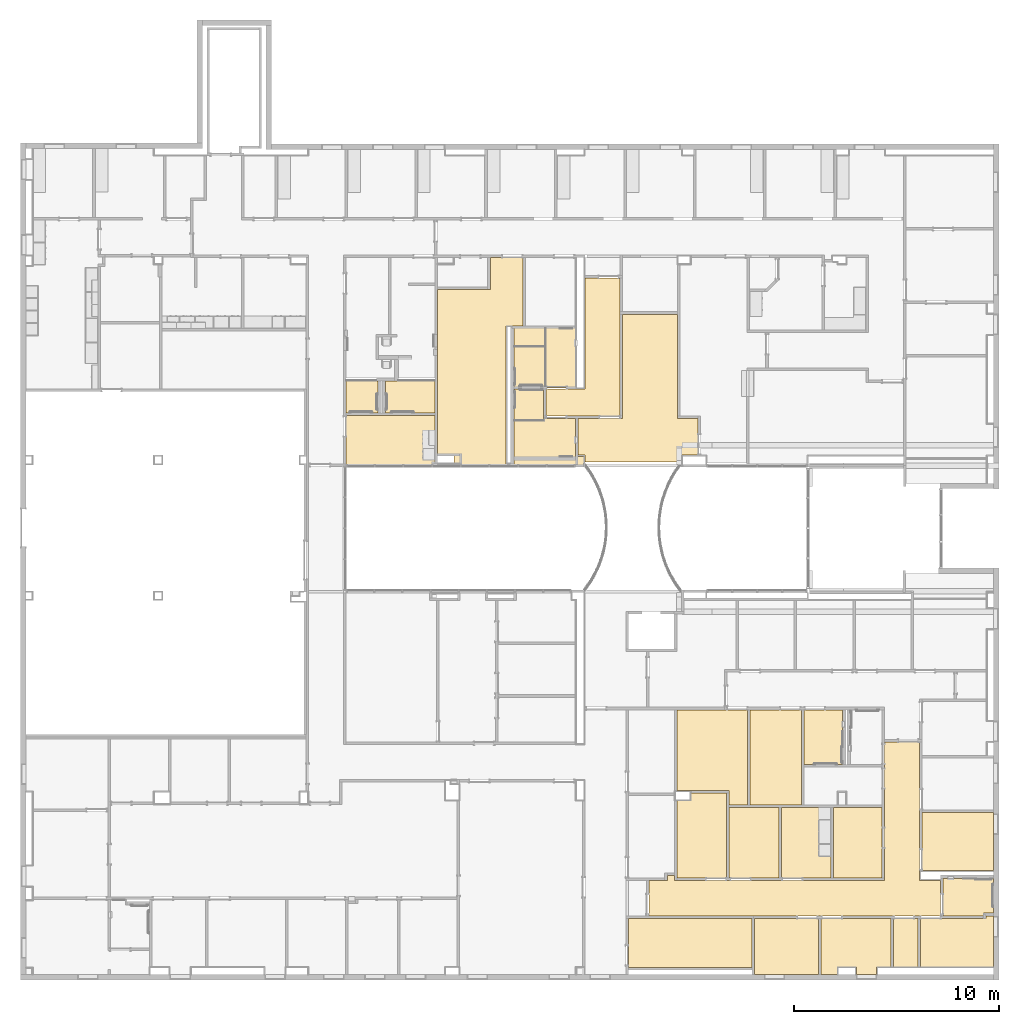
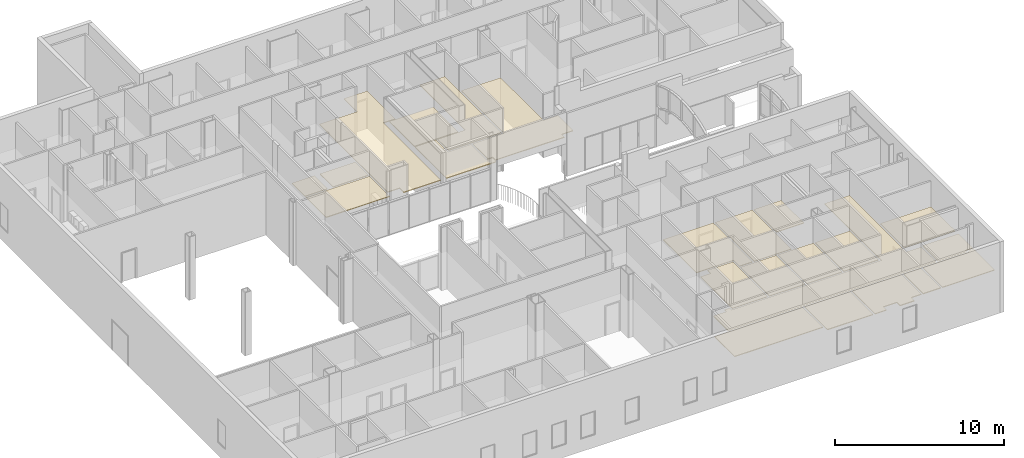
# One storey, part 28 of 47: 23 coverings.
"""IFC2X3 building model written with IfcOpenShell, lengths in metres."""

from ifc_helpers import new_model, entity, si_unit, converted_unit, frame, origin, place, context, project, spatial, face_set, surface_model, material, layer, layer_set, layer_usage, element, save


model = new_model("IFC2X3")

# Units and contexts
model_context = context("Model", 3, precision=1e-09, world=origin())
plan_context = context("Plan", 3, precision=1e-09, world=origin())
ifc_project = project(units=[si_unit("LENGTHUNIT", "METRE"), si_unit("AREAUNIT", "SQUARE_METRE"), si_unit("VOLUMEUNIT", "CUBIC_METRE"), converted_unit("PLANEANGLEUNIT", "DEGREE", entity("IfcRatioMeasure", 0.01745329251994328), si_unit("PLANEANGLEUNIT", "RADIAN"), dimensions=[0, 0, 0, 0, 0, 0, 0]), si_unit("TIMEUNIT", "SECOND")], contexts=[model_context, plan_context])

# Site, building, storey
site_placement = place(None, origin())
site = spatial("IfcSite", under=ifc_project, at=site_placement, Name="Default", CompositionType="ELEMENT")
building_placement = place(site_placement, origin())
building = spatial("IfcBuilding", under=site, at=building_placement, CompositionType="ELEMENT")
storey_placement = place(building_placement, frame((0.0, 0.0, 4.570000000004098)))
storey = spatial("IfcBuildingStorey", under=building, at=storey_placement, Name="Second Floor", CompositionType="ELEMENT", Elevation=4.570000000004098)

# Coverings
ifc_material_1 = material(Name="Default")
ifc_layer_1 = layer(ifc_material_1, 0.03599999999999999)
ifc_material_2 = material(Name="Ceiling Tile 600 x 600")
ifc_layer_2 = layer(ifc_material_2, 0.016)
ifc_layer_set = layer_set([ifc_layer_1, ifc_layer_2], Name="Compound Ceiling:ACT 600 x 600mm Grid")
ifc_layer_usage_1 = layer_usage(ifc_layer_set, "AXIS3", "NEGATIVE", 0.0)
covering_1_placement = place(storey_placement, origin())
element("IfcCovering", 1, at=covering_1_placement, inside=storey, material=ifc_layer_usage_1, Name="Compound Ceiling:ACT 600 x 600mm Grid", ObjectType="Compound Ceiling:ACT 600 x 600mm Grid", PredefinedType="CEILING", context=model_context, shape_type="SurfaceModel", body=[
    surface_model("IfcFaceBasedSurfaceModel", [(-21.73000000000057, 38.51435336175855, 2.732000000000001), (-19.83000000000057, 38.51435336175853, 2.732000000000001), (-19.83000000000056, 43.91543871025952, 2.732000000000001), (-18.12900000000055, 43.9154387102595, 2.732000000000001), (-18.12900000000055, 42.28643871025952, 2.732000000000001), (-18.12900000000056, 37.19843871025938, 2.732000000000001), (-21.73000000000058, 37.1984387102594, 2.732000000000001), (-21.73000000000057, 38.51435336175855, 2.680000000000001), (-21.73000000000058, 37.1984387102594, 2.680000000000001), (-18.12900000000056, 37.19843871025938, 2.680000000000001), (-18.12900000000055, 42.28643871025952, 2.680000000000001), (-18.12900000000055, 43.9154387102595, 2.680000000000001), (-19.83000000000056, 43.91543871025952, 2.680000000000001), (-19.83000000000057, 38.51435336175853, 2.680000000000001)], [face_set([[[0, 1, 2, 3, 4, 5, 6]], [[7, 8, 9, 10, 11, 12, 13]], [[6, 8, 7, 0]], [[5, 6, 8, 9]], [[4, 5, 9, 10]], [[3, 4, 10, 11]], [[2, 12, 11, 3]], [[1, 13, 12, 2]], [[0, 7, 13, 1]]])]),
])
ifc_layer_usage_2 = layer_usage(ifc_layer_set, "AXIS3", "NEGATIVE", 0.0)
covering_2_placement = place(storey_placement, origin())
element("IfcCovering", 2, at=covering_2_placement, inside=storey, material=ifc_layer_usage_2, Name="Compound Ceiling:ACT 600 x 600mm Grid", ObjectType="Compound Ceiling:ACT 600 x 600mm Grid", PredefinedType="CEILING", context=model_context, shape_type="SurfaceModel", body=[
    surface_model("IfcFaceBasedSurfaceModel", [(-14.32000000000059, 35.27443871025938, 2.732000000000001), (-15.10997500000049, 35.27443871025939, 2.732000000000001), (-15.10997500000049, 34.94688750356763, 2.732000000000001), (-19.83000000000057, 34.94688750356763, 2.732000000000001), (-19.83000000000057, 35.2744387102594, 2.732000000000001), (-20.16600000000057, 35.2744387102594, 2.732000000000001), (-20.16600000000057, 37.07443871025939, 2.732000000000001), (-18.00500000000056, 37.07443871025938, 2.732000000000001), (-18.00500000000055, 42.15600069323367, 2.732000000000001), (-15.32000000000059, 42.15600069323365, 2.732000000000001), (-15.3200000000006, 37.07443871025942, 2.732000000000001), (-14.32000000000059, 37.07443871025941, 2.732000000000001), (-14.32000000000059, 35.27443871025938, 2.680000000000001), (-14.32000000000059, 37.07443871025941, 2.680000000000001), (-15.3200000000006, 37.07443871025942, 2.680000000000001), (-15.32000000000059, 42.15600069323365, 2.680000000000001), (-18.00500000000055, 42.15600069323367, 2.680000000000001), (-18.00500000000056, 37.07443871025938, 2.680000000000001), (-20.16600000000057, 37.07443871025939, 2.680000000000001), (-20.16600000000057, 35.2744387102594, 2.680000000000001), (-19.83000000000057, 35.2744387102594, 2.680000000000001), (-19.83000000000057, 34.94688750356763, 2.680000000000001), (-15.10997500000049, 34.94688750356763, 2.680000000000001), (-15.10997500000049, 35.27443871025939, 2.680000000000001)], [face_set([[[0, 1, 2, 3, 4, 5, 6, 7, 8, 9, 10, 11]], [[12, 13, 14, 15, 16, 17, 18, 19, 20, 21, 22, 23]], [[11, 0, 12, 13]], [[10, 14, 13, 11]], [[9, 10, 14, 15]], [[8, 16, 15, 9]], [[7, 17, 16, 8]], [[6, 18, 17, 7]], [[5, 19, 18, 6]], [[4, 5, 19, 20]], [[3, 21, 20, 4]], [[2, 3, 21, 22]], [[1, 2, 22, 23]], [[0, 1, 23, 12]]])]),
])
ifc_layer_usage_3 = layer_usage(ifc_layer_set, "AXIS3", "NEGATIVE", 0.0)
covering_3_placement = place(storey_placement, origin())
element("IfcCovering", 3, at=covering_3_placement, inside=storey, material=ifc_layer_usage_3, Name="Compound Ceiling:ACT 600 x 600mm Grid", ObjectType="Compound Ceiling:ACT 600 x 600mm Grid", PredefinedType="CEILING", context=model_context, shape_type="SurfaceModel", body=[
    surface_model("IfcFaceBasedSurfaceModel", [(-21.85400000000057, 37.07443871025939, 2.732000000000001), (-20.29000000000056, 37.07443871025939, 2.732000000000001), (-20.29000000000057, 35.22043871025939, 2.732000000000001), (-19.88400000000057, 35.22043871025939, 2.732000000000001), (-19.88400000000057, 34.77180159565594, 2.732000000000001), (-23.29000000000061, 34.77180159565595, 2.732000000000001), (-23.2900000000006, 38.51435336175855, 2.732000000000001), (-21.85400000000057, 38.51435336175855, 2.732000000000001), (-21.85400000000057, 37.07443871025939, 2.680000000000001), (-20.29000000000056, 37.07443871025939, 2.680000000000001), (-20.29000000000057, 35.22043871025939, 2.680000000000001), (-19.88400000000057, 35.22043871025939, 2.680000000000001), (-19.88400000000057, 34.77180159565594, 2.680000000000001), (-23.29000000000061, 34.77180159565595, 2.680000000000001), (-23.2900000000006, 38.51435336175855, 2.680000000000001), (-21.85400000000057, 38.51435336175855, 2.680000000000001)], [face_set([[[0, 1, 2, 3, 4, 5, 6, 7]], [[8, 9, 10, 11, 12, 13, 14, 15]], [[7, 0, 8, 15]], [[6, 14, 15, 7]], [[5, 13, 14, 6]], [[4, 5, 13, 12]], [[3, 4, 12, 11]], [[2, 10, 11, 3]], [[1, 2, 10, 9]], [[0, 8, 9, 1]]])]),
])
ifc_layer_usage_4 = layer_usage(ifc_layer_set, "AXIS3", "NEGATIVE", 0.0)
covering_4_placement = place(storey_placement, origin())
element("IfcCovering", 4, at=covering_4_placement, inside=storey, material=ifc_layer_usage_4, Name="Compound Ceiling:ACT 600 x 600mm Grid", ObjectType="Compound Ceiling:ACT 600 x 600mm Grid", PredefinedType="CEILING", context=model_context, shape_type="SurfaceModel", body=[
    surface_model("IfcFaceBasedSurfaceModel", [(-20.29000000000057, 41.54043871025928, 2.732000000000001), (-20.29000000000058, 38.56835336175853, 2.732000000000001), (-23.2900000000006, 38.56835336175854, 2.732000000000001), (-23.2900000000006, 41.54043871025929, 2.732000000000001), (-20.29000000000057, 41.54043871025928, 2.680000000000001), (-20.29000000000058, 38.56835336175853, 2.680000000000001), (-23.2900000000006, 38.56835336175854, 2.680000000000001), (-23.2900000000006, 41.54043871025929, 2.680000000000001)], [face_set([[[0, 1, 2, 3]], [[4, 5, 6, 7]], [[3, 7, 4, 0]], [[2, 6, 7, 3]], [[1, 2, 6, 5]], [[0, 1, 5, 4]]])]),
])
ifc_layer_usage_5 = layer_usage(ifc_layer_set, "AXIS3", "NEGATIVE", 0.0)
covering_5_placement = place(storey_placement, origin())
element("IfcCovering", 5, at=covering_5_placement, inside=storey, material=ifc_layer_usage_5, Name="Compound Ceiling:ACT 600 x 600mm Grid", ObjectType="Compound Ceiling:ACT 600 x 600mm Grid", PredefinedType="CEILING", context=model_context, shape_type="SurfaceModel", body=[
    surface_model("IfcFaceBasedSurfaceModel", [(-24.45000000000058, 43.36443871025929, 2.732000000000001), (-24.45000000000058, 44.92043871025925, 2.732000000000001), (-22.85400000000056, 44.92043871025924, 2.732000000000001), (-22.85400000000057, 41.5944387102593, 2.732000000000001), (-23.6700000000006, 41.5944387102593, 2.732000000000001), (-23.67000000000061, 34.77180159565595, 2.732000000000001), (-26.21000000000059, 34.77180159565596, 2.732000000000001), (-26.21000000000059, 35.2744387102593, 2.732000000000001), (-27.02600000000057, 35.2744387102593, 2.732000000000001), (-27.02600000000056, 43.3644387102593, 2.732000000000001), (-24.45000000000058, 43.36443871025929, 2.680000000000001), (-24.45000000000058, 44.92043871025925, 2.680000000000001), (-22.85400000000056, 44.92043871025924, 2.680000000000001), (-22.85400000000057, 41.5944387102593, 2.680000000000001), (-23.6700000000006, 41.5944387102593, 2.680000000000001), (-23.67000000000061, 34.77180159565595, 2.680000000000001), (-26.21000000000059, 34.77180159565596, 2.680000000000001), (-26.21000000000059, 35.2744387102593, 2.680000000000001), (-27.02600000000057, 35.2744387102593, 2.680000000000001), (-27.02600000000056, 43.3644387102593, 2.680000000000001)], [face_set([[[0, 1, 2, 3, 4, 5, 6, 7, 8, 9]], [[10, 11, 12, 13, 14, 15, 16, 17, 18, 19]], [[9, 19, 10, 0]], [[8, 18, 19, 9]], [[7, 8, 18, 17]], [[6, 16, 17, 7]], [[5, 6, 16, 15]], [[4, 5, 15, 14]], [[3, 4, 14, 13]], [[2, 3, 13, 12]], [[1, 11, 12, 2]], [[0, 10, 11, 1]]])]),
])
ifc_layer_usage_6 = layer_usage(ifc_layer_set, "AXIS3", "NEGATIVE", 0.0)
covering_6_placement = place(storey_placement, origin())
element("IfcCovering", 6, at=covering_6_placement, inside=storey, material=ifc_layer_usage_6, Name="Compound Ceiling:ACT 600 x 600mm Grid", ObjectType="Compound Ceiling:ACT 600 x 600mm Grid", PredefinedType="CEILING", context=model_context, shape_type="SurfaceModel", body=[
    surface_model("IfcFaceBasedSurfaceModel", [(-29.56000000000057, 38.90976656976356, 2.732000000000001), (-29.00200000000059, 38.90976656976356, 2.732000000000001), (-27.15000000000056, 38.90976656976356, 2.732000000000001), (-27.15000000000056, 37.34443871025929, 2.732000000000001), (-29.56000000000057, 37.3444387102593, 2.732000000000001), (-29.56000000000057, 38.90976656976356, 2.680000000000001), (-29.00200000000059, 38.90976656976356, 2.680000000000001), (-27.15000000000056, 38.90976656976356, 2.680000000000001), (-27.15000000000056, 37.34443871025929, 2.680000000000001), (-29.56000000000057, 37.3444387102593, 2.680000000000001)], [face_set([[[0, 1, 2, 3, 4]], [[5, 6, 7, 8, 9]], [[4, 9, 5, 0]], [[3, 4, 9, 8]], [[2, 3, 8, 7]], [[1, 6, 7, 2]], [[0, 5, 6, 1]]])]),
])
ifc_layer_usage_7 = layer_usage(ifc_layer_set, "AXIS3", "NEGATIVE", 0.0)
covering_7_placement = place(storey_placement, origin())
element("IfcCovering", 7, at=covering_7_placement, inside=storey, material=ifc_layer_usage_7, Name="Compound Ceiling:ACT 600 x 600mm Grid", ObjectType="Compound Ceiling:ACT 600 x 600mm Grid", PredefinedType="CEILING", context=model_context, shape_type="SurfaceModel", body=[
    surface_model("IfcFaceBasedSurfaceModel", [(-29.94000000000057, 37.3444387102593, 2.732000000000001), (-31.48600000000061, 37.3444387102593, 2.732000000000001), (-31.48600000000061, 38.90976656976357, 2.732000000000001), (-29.94000000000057, 38.90976656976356, 2.732000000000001), (-29.94000000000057, 37.3444387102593, 2.680000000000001), (-31.48600000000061, 37.3444387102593, 2.680000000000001), (-31.48600000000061, 38.90976656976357, 2.680000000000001), (-29.94000000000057, 38.90976656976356, 2.680000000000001)], [face_set([[[0, 1, 2, 3]], [[4, 5, 6, 7]], [[3, 0, 4, 7]], [[2, 6, 7, 3]], [[1, 5, 6, 2]], [[0, 1, 5, 4]]])]),
])
ifc_layer_usage_8 = layer_usage(ifc_layer_set, "AXIS3", "NEGATIVE", 0.0)
covering_8_placement = place(storey_placement, origin())
element("IfcCovering", 8, at=covering_8_placement, inside=storey, material=ifc_layer_usage_8, Name="Compound Ceiling:ACT 600 x 600mm Grid", ObjectType="Compound Ceiling:ACT 600 x 600mm Grid", PredefinedType="CEILING", context=model_context, shape_type="SurfaceModel", body=[
    surface_model("IfcFaceBasedSurfaceModel", [(-31.48600000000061, 34.83380159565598, 2.732000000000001), (-31.48600000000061, 37.2204387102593, 2.732000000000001), (-27.15000000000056, 37.22043871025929, 2.732000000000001), (-27.15000000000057, 34.83380159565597, 2.732000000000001), (-31.48600000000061, 34.83380159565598, 2.680000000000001), (-31.48600000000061, 37.2204387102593, 2.680000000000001), (-27.15000000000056, 37.22043871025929, 2.680000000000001), (-27.15000000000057, 34.83380159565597, 2.680000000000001)], [face_set([[[0, 1, 2, 3]], [[4, 5, 6, 7]], [[3, 0, 4, 7]], [[2, 3, 7, 6]], [[1, 5, 6, 2]], [[0, 4, 5, 1]]])]),
])
ifc_layer_usage_9 = layer_usage(ifc_layer_set, "AXIS3", "NEGATIVE", 0.0)
covering_9_placement = place(storey_placement, origin())
element("IfcCovering", 9, at=covering_9_placement, inside=storey, material=ifc_layer_usage_9, Name="Compound Ceiling:ACT 600 x 600mm Grid", ObjectType="Compound Ceiling:ACT 600 x 600mm Grid", PredefinedType="CEILING", context=model_context, shape_type="SurfaceModel", body=[
    surface_model("IfcFaceBasedSurfaceModel", [(-17.70600000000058, 12.65599999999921, 2.732000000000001), (-11.67399985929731, 12.65599999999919, 2.732000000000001), (-11.67399985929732, 10.26999983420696, 2.732000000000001), (-17.70600000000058, 10.26999983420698, 2.732000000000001), (-17.70600000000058, 12.65599999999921, 2.680000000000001), (-11.67399985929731, 12.65599999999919, 2.680000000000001), (-11.67399985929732, 10.26999983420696, 2.680000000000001), (-17.70600000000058, 10.26999983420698, 2.680000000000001)], [face_set([[[0, 1, 2, 3]], [[4, 5, 6, 7]], [[3, 7, 4, 0]], [[2, 3, 7, 6]], [[1, 2, 6, 5]], [[0, 4, 5, 1]]])]),
])
ifc_layer_usage_10 = layer_usage(ifc_layer_set, "AXIS3", "NEGATIVE", 0.0)
covering_10_placement = place(storey_placement, origin())
element("IfcCovering", 10, at=covering_10_placement, inside=storey, material=ifc_layer_usage_10, Name="Compound Ceiling:ACT 600 x 600mm Grid", ObjectType="Compound Ceiling:ACT 600 x 600mm Grid", PredefinedType="CEILING", context=model_context, shape_type="SurfaceModel", body=[
    surface_model("IfcFaceBasedSurfaceModel", [(-8.42000000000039, 12.65599999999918, 2.732000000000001), (-8.420000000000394, 9.926999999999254, 2.732000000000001), (-11.54999985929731, 9.926999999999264, 2.732000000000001), (-11.54999985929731, 12.65599999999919, 2.732000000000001), (-8.42000000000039, 12.65599999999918, 2.680000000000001), (-8.420000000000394, 9.926999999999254, 2.680000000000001), (-11.54999985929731, 9.926999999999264, 2.680000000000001), (-11.54999985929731, 12.65599999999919, 2.680000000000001)], [face_set([[[0, 1, 2, 3]], [[4, 5, 6, 7]], [[3, 7, 4, 0]], [[2, 6, 7, 3]], [[1, 2, 6, 5]], [[0, 1, 5, 4]]])]),
])
ifc_layer_usage_11 = layer_usage(ifc_layer_set, "AXIS3", "NEGATIVE", 0.0)
covering_11_placement = place(storey_placement, origin())
element("IfcCovering", 11, at=covering_11_placement, inside=storey, material=ifc_layer_usage_11, Name="Compound Ceiling:ACT 600 x 600mm Grid", ObjectType="Compound Ceiling:ACT 600 x 600mm Grid", PredefinedType="CEILING", context=model_context, shape_type="SurfaceModel", body=[
    surface_model("IfcFaceBasedSurfaceModel", [(-5.585003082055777, 10.30443871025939, 2.732000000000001), (-5.585003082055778, 9.926999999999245, 2.732000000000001), (-6.585003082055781, 9.926999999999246, 2.732000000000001), (-6.585003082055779, 10.30443871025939, 2.732000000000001), (-7.510000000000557, 10.30443871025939, 2.732000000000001), (-7.510000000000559, 9.92699999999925, 2.732000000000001), (-8.296000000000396, 9.926999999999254, 2.732000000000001), (-8.29600000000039, 12.65599999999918, 2.732000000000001), (-4.900000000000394, 12.65599999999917, 2.732000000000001), (-4.900000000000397, 10.30443871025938, 2.732000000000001), (-5.585003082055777, 10.30443871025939, 2.680000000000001), (-5.585003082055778, 9.926999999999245, 2.680000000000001), (-6.585003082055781, 9.926999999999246, 2.680000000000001), (-6.585003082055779, 10.30443871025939, 2.680000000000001), (-7.510000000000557, 10.30443871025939, 2.680000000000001), (-7.510000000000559, 9.92699999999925, 2.680000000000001), (-8.296000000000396, 9.926999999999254, 2.680000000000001), (-8.29600000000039, 12.65599999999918, 2.680000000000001), (-4.900000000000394, 12.65599999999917, 2.680000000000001), (-4.900000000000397, 10.30443871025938, 2.680000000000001)], [face_set([[[0, 1, 2, 3, 4, 5, 6, 7, 8, 9]], [[10, 11, 12, 13, 14, 15, 16, 17, 18, 19]], [[9, 0, 10, 19]], [[8, 9, 19, 18]], [[7, 17, 18, 8]], [[6, 16, 17, 7]], [[5, 6, 16, 15]], [[4, 5, 15, 14]], [[3, 4, 14, 13]], [[2, 12, 13, 3]], [[1, 2, 12, 11]], [[0, 1, 11, 10]]])]),
])
ifc_layer_usage_12 = layer_usage(ifc_layer_set, "AXIS3", "NEGATIVE", 0.0)
covering_12_placement = place(storey_placement, origin())
element("IfcCovering", 12, at=covering_12_placement, inside=storey, material=ifc_layer_usage_12, Name="Compound Ceiling:ACT 600 x 600mm Grid", ObjectType="Compound Ceiling:ACT 600 x 600mm Grid", PredefinedType="CEILING", context=model_context, shape_type="SurfaceModel", body=[
    surface_model("IfcFaceBasedSurfaceModel", [(-4.776000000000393, 12.65599999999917, 2.732000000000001), (-3.574000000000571, 12.65599999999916, 2.732000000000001), (-3.574000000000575, 10.30443871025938, 2.732000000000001), (-4.776000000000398, 10.30443871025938, 2.732000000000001), (-4.776000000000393, 12.65599999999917, 2.680000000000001), (-3.574000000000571, 12.65599999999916, 2.680000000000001), (-3.574000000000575, 10.30443871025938, 2.680000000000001), (-4.776000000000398, 10.30443871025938, 2.680000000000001)], [face_set([[[0, 1, 2, 3]], [[4, 5, 6, 7]], [[3, 7, 4, 0]], [[2, 3, 7, 6]], [[1, 2, 6, 5]], [[0, 4, 5, 1]]])]),
])
ifc_layer_usage_13 = layer_usage(ifc_layer_set, "AXIS3", "NEGATIVE", 0.0)
covering_13_placement = place(storey_placement, origin())
element("IfcCovering", 13, at=covering_13_placement, inside=storey, material=ifc_layer_usage_13, Name="Compound Ceiling:ACT 600 x 600mm Grid", ObjectType="Compound Ceiling:ACT 600 x 600mm Grid", PredefinedType="CEILING", context=model_context, shape_type="SurfaceModel", body=[
    surface_model("IfcFaceBasedSurfaceModel", [(-3.366000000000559, 17.84393871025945, 2.732000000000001), (0.1129999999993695, 17.84393871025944, 2.732000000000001), (0.1129999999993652, 14.99443871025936, 2.732000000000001), (-3.366000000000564, 14.99443871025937, 2.732000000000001), (-3.366000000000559, 17.84393871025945, 2.680000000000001), (0.1129999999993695, 17.84393871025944, 2.680000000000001), (0.1129999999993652, 14.99443871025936, 2.680000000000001), (-3.366000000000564, 14.99443871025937, 2.680000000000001)], [face_set([[[0, 1, 2, 3]], [[4, 5, 6, 7]], [[3, 7, 4, 0]], [[2, 3, 7, 6]], [[1, 2, 6, 5]], [[0, 4, 5, 1]]])]),
])
ifc_layer_usage_14 = layer_usage(ifc_layer_set, "AXIS3", "NEGATIVE", 0.0)
covering_14_placement = place(storey_placement, origin())
element("IfcCovering", 14, at=covering_14_placement, inside=storey, material=ifc_layer_usage_14, Name="Compound Ceiling:ACT 600 x 600mm Grid", ObjectType="Compound Ceiling:ACT 600 x 600mm Grid", PredefinedType="CEILING", context=model_context, shape_type="SurfaceModel", body=[
    surface_model("IfcFaceBasedSurfaceModel", [(-15.46000000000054, 14.52443871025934, 2.732000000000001), (-5.200000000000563, 14.52443871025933, 2.732000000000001), (-5.200000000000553, 21.27703871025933, 2.732000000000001), (-3.490000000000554, 21.27703871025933, 2.732000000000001), (-3.490000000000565, 14.52443871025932, 2.732000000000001), (-2.464000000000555, 14.52443871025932, 2.732000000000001), (-2.464000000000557, 12.77999999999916, 2.732000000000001), (-16.70600000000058, 12.7799999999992, 2.732000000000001), (-16.70600000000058, 14.52443871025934, 2.732000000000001), (-15.81000000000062, 14.52443871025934, 2.732000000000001), (-15.81000000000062, 14.74943871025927, 2.732000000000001), (-15.46000000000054, 14.74943871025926, 2.732000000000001), (-15.46000000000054, 14.52443871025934, 2.680000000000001), (-15.46000000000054, 14.74943871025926, 2.680000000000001), (-15.81000000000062, 14.74943871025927, 2.680000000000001), (-15.81000000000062, 14.52443871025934, 2.680000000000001), (-16.70600000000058, 14.52443871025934, 2.680000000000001), (-16.70600000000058, 12.7799999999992, 2.680000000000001), (-2.464000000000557, 12.77999999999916, 2.680000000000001), (-2.464000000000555, 14.52443871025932, 2.680000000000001), (-3.490000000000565, 14.52443871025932, 2.680000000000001), (-3.490000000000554, 21.27703871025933, 2.680000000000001), (-5.200000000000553, 21.27703871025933, 2.680000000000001), (-5.200000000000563, 14.52443871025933, 2.680000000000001)], [face_set([[[0, 1, 2, 3, 4, 5, 6, 7, 8, 9, 10, 11]], [[12, 13, 14, 15, 16, 17, 18, 19, 20, 21, 22, 23]], [[11, 0, 12, 13]], [[10, 14, 13, 11]], [[9, 15, 14, 10]], [[8, 16, 15, 9]], [[7, 17, 16, 8]], [[6, 7, 17, 18]], [[5, 6, 18, 19]], [[4, 20, 19, 5]], [[3, 4, 20, 21]], [[2, 22, 21, 3]], [[1, 23, 22, 2]], [[0, 12, 23, 1]]])]),
])
ifc_layer_usage_15 = layer_usage(ifc_layer_set, "AXIS3", "NEGATIVE", 0.0)
covering_15_placement = place(storey_placement, origin())
element("IfcCovering", 15, at=covering_15_placement, inside=storey, material=ifc_layer_usage_15, Name="Compound Ceiling:ACT 600 x 600mm Grid", ObjectType="Compound Ceiling:ACT 600 x 600mm Grid", PredefinedType="CEILING", context=model_context, shape_type="SurfaceModel", body=[
    surface_model("IfcFaceBasedSurfaceModel", [(-12.91400000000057, 14.64843871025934, 2.732000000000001), (-15.33600000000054, 14.64843871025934, 2.732000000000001), (-15.33600000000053, 18.41443871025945, 2.732000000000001), (-14.64997500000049, 18.41443871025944, 2.732000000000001), (-14.64997500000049, 18.78043871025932, 2.732000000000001), (-12.91400000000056, 18.78043871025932, 2.732000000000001), (-12.91400000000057, 14.64843871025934, 2.680000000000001), (-15.33600000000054, 14.64843871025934, 2.680000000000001), (-15.33600000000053, 18.41443871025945, 2.680000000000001), (-14.64997500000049, 18.41443871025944, 2.680000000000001), (-14.64997500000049, 18.78043871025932, 2.680000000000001), (-12.91400000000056, 18.78043871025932, 2.680000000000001)], [face_set([[[0, 1, 2, 3, 4, 5]], [[6, 7, 8, 9, 10, 11]], [[5, 0, 6, 11]], [[4, 10, 11, 5]], [[3, 9, 10, 4]], [[2, 8, 9, 3]], [[1, 7, 8, 2]], [[0, 1, 7, 6]]])]),
])
ifc_layer_usage_16 = layer_usage(ifc_layer_set, "AXIS3", "NEGATIVE", 0.0)
covering_16_placement = place(storey_placement, origin())
element("IfcCovering", 16, at=covering_16_placement, inside=storey, material=ifc_layer_usage_16, Name="Compound Ceiling:ACT 600 x 600mm Grid", ObjectType="Compound Ceiling:ACT 600 x 600mm Grid", PredefinedType="CEILING", context=model_context, shape_type="SurfaceModel", body=[
    surface_model("IfcFaceBasedSurfaceModel", [(-10.35000000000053, 18.0804387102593, 2.732000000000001), (-10.35000000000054, 14.64843871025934, 2.732000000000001), (-12.79000000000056, 14.64843871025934, 2.732000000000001), (-12.79000000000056, 18.08043871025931, 2.732000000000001), (-10.35000000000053, 18.0804387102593, 2.680000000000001), (-10.35000000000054, 14.64843871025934, 2.680000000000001), (-12.79000000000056, 14.64843871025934, 2.680000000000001), (-12.79000000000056, 18.08043871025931, 2.680000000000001)], [face_set([[[0, 1, 2, 3]], [[4, 5, 6, 7]], [[3, 7, 4, 0]], [[2, 6, 7, 3]], [[1, 2, 6, 5]], [[0, 1, 5, 4]]])]),
])
ifc_layer_usage_17 = layer_usage(ifc_layer_set, "AXIS3", "NEGATIVE", 0.0)
covering_17_placement = place(storey_placement, origin())
element("IfcCovering", 17, at=covering_17_placement, inside=storey, material=ifc_layer_usage_17, Name="Compound Ceiling:ACT 600 x 600mm Grid", ObjectType="Compound Ceiling:ACT 600 x 600mm Grid", PredefinedType="CEILING", context=model_context, shape_type="SurfaceModel", body=[
    surface_model("IfcFaceBasedSurfaceModel", [(-7.820000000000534, 18.08043871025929, 2.732000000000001), (-7.820000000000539, 14.64843871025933, 2.732000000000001), (-10.22600000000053, 14.64843871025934, 2.732000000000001), (-10.22600000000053, 18.0804387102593, 2.732000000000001), (-7.820000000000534, 18.08043871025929, 2.680000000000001), (-7.820000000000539, 14.64843871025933, 2.680000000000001), (-10.22600000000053, 14.64843871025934, 2.680000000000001), (-10.22600000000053, 18.0804387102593, 2.680000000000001)], [face_set([[[0, 1, 2, 3]], [[4, 5, 6, 7]], [[3, 7, 4, 0]], [[2, 6, 7, 3]], [[1, 2, 6, 5]], [[0, 1, 5, 4]]])]),
])
ifc_layer_usage_18 = layer_usage(ifc_layer_set, "AXIS3", "NEGATIVE", 0.0)
covering_18_placement = place(storey_placement, origin())
element("IfcCovering", 18, at=covering_18_placement, inside=storey, material=ifc_layer_usage_18, Name="Compound Ceiling:ACT 600 x 600mm Grid", ObjectType="Compound Ceiling:ACT 600 x 600mm Grid", PredefinedType="CEILING", context=model_context, shape_type="SurfaceModel", body=[
    surface_model("IfcFaceBasedSurfaceModel", [(-5.324000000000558, 18.08043871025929, 2.732000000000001), (-5.324000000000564, 14.64843871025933, 2.732000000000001), (-7.69600000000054, 14.64843871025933, 2.732000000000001), (-7.696000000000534, 18.08043871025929, 2.732000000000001), (-5.324000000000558, 18.08043871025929, 2.680000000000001), (-5.324000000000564, 14.64843871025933, 2.680000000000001), (-7.69600000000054, 14.64843871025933, 2.680000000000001), (-7.696000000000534, 18.08043871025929, 2.680000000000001)], [face_set([[[0, 1, 2, 3]], [[4, 5, 6, 7]], [[3, 7, 4, 0]], [[2, 6, 7, 3]], [[1, 2, 6, 5]], [[0, 1, 5, 4]]])]),
])
ifc_layer_usage_19 = layer_usage(ifc_layer_set, "AXIS3", "NEGATIVE", 0.0)
covering_19_placement = place(storey_placement, origin())
element("IfcCovering", 19, at=covering_19_placement, inside=storey, material=ifc_layer_usage_19, Name="Compound Ceiling:ACT 600 x 600mm Grid", ObjectType="Compound Ceiling:ACT 600 x 600mm Grid", PredefinedType="CEILING", context=model_context, shape_type="SurfaceModel", body=[
    surface_model("IfcFaceBasedSurfaceModel", [(-11.77600000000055, 22.85043871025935, 2.732000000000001), (-9.250000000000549, 22.85043871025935, 2.732000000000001), (-9.250000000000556, 18.2044387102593, 2.732000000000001), (-11.77600000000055, 18.20443871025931, 2.732000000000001), (-11.77600000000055, 22.85043871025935, 2.680000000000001), (-9.250000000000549, 22.85043871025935, 2.680000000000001), (-9.250000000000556, 18.2044387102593, 2.680000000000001), (-11.77600000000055, 18.20443871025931, 2.680000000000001)], [face_set([[[0, 1, 2, 3]], [[4, 5, 6, 7]], [[3, 7, 4, 0]], [[2, 3, 7, 6]], [[1, 2, 6, 5]], [[0, 4, 5, 1]]])]),
])
ifc_layer_usage_20 = layer_usage(ifc_layer_set, "AXIS3", "NEGATIVE", 0.0)
covering_20_placement = place(storey_placement, origin())
element("IfcCovering", 20, at=covering_20_placement, inside=storey, material=ifc_layer_usage_20, Name="Compound Ceiling:ACT 600 x 600mm Grid", ObjectType="Compound Ceiling:ACT 600 x 600mm Grid", PredefinedType="CEILING", context=model_context, shape_type="SurfaceModel", body=[
    surface_model("IfcFaceBasedSurfaceModel", [(-15.33600000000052, 22.85043871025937, 2.732000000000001), (-12.94800000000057, 22.85043871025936, 2.732000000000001), (-11.90000000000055, 22.85043871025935, 2.732000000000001), (-11.90000000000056, 18.20443871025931, 2.732000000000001), (-12.79000000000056, 18.20443871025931, 2.732000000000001), (-12.79000000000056, 18.90443871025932, 2.732000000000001), (-15.33600000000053, 18.90443871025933, 2.732000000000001), (-15.33600000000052, 22.85043871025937, 2.680000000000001), (-12.94800000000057, 22.85043871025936, 2.680000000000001), (-11.90000000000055, 22.85043871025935, 2.680000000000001), (-11.90000000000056, 18.20443871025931, 2.680000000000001), (-12.79000000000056, 18.20443871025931, 2.680000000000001), (-12.79000000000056, 18.90443871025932, 2.680000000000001), (-15.33600000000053, 18.90443871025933, 2.680000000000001)], [face_set([[[0, 1, 2, 3, 4, 5, 6]], [[7, 8, 9, 10, 11, 12, 13]], [[6, 13, 7, 0]], [[5, 6, 13, 12]], [[4, 11, 12, 5]], [[3, 4, 11, 10]], [[2, 3, 10, 9]], [[1, 8, 9, 2]], [[0, 7, 8, 1]]])]),
])
ifc_layer_usage_21 = layer_usage(ifc_layer_set, "AXIS3", "NEGATIVE", 0.0)
covering_21_placement = place(storey_placement, origin())
element("IfcCovering", 21, at=covering_21_placement, inside=storey, material=ifc_layer_usage_21, Name="Compound Ceiling:ACT 600 x 600mm Grid", ObjectType="Compound Ceiling:ACT 600 x 600mm Grid", PredefinedType="CEILING", context=model_context, shape_type="SurfaceModel", body=[
    surface_model("IfcFaceBasedSurfaceModel", [(-9.12600000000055, 22.85043871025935, 2.732000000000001), (-7.250000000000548, 22.85043871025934, 2.732000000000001), (-7.250000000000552, 20.17843871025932, 2.732000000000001), (-9.126000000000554, 20.17843871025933, 2.732000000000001), (-9.12600000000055, 22.85043871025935, 2.680000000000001), (-7.250000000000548, 22.85043871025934, 2.680000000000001), (-7.250000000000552, 20.17843871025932, 2.680000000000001), (-9.126000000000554, 20.17843871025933, 2.680000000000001)], [face_set([[[0, 1, 2, 3]], [[4, 5, 6, 7]], [[3, 7, 4, 0]], [[2, 3, 7, 6]], [[1, 2, 6, 5]], [[0, 4, 5, 1]]])]),
])
ifc_layer_usage_22 = layer_usage(ifc_layer_set, "AXIS3", "NEGATIVE", 0.0)
covering_22_placement = place(storey_placement, origin())
element("IfcCovering", 22, at=covering_22_placement, inside=storey, material=ifc_layer_usage_22, Name="Compound Ceiling:ACT 600 x 600mm Grid", ObjectType="Compound Ceiling:ACT 600 x 600mm Grid", PredefinedType="CEILING", context=model_context, shape_type="SurfaceModel", body=[
    surface_model("IfcFaceBasedSurfaceModel", [(0.1129999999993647, 14.61443871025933, 2.732000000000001), (0.112999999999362, 12.91843871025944, 2.732000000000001), (-0.3790000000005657, 12.91843871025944, 2.732000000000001), (-0.3790000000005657, 12.77999999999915, 2.732000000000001), (-2.340000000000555, 12.77999999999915, 2.732000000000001), (-2.340000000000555, 14.61443871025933, 2.732000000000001), (0.1129999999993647, 14.61443871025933, 2.680000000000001), (0.112999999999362, 12.91843871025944, 2.680000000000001), (-0.3790000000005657, 12.91843871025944, 2.680000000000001), (-0.3790000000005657, 12.77999999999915, 2.680000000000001), (-2.340000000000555, 12.77999999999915, 2.680000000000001), (-2.340000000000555, 14.61443871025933, 2.680000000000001)], [face_set([[[0, 1, 2, 3, 4, 5]], [[6, 7, 8, 9, 10, 11]], [[5, 11, 6, 0]], [[4, 10, 11, 5]], [[3, 4, 10, 9]], [[2, 3, 9, 8]], [[1, 2, 8, 7]], [[0, 1, 7, 6]]])]),
])
ifc_layer_usage_23 = layer_usage(ifc_layer_set, "AXIS3", "NEGATIVE", 0.0)
covering_23_placement = place(storey_placement, origin())
element("IfcCovering", 23, at=covering_23_placement, inside=storey, material=ifc_layer_usage_23, Name="Compound Ceiling:ACT 600 x 600mm Grid", ObjectType="Compound Ceiling:ACT 600 x 600mm Grid", PredefinedType="CEILING", context=model_context, shape_type="SurfaceModel", body=[
    surface_model("IfcFaceBasedSurfaceModel", [(-0.2550000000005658, 12.65599999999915, 2.732000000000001), (-0.2550000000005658, 12.79443871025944, 2.732000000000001), (0.1129999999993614, 12.79443871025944, 2.732000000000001), (0.1129999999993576, 10.30443871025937, 2.732000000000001), (-3.450000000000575, 10.30443871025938, 2.732000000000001), (-3.450000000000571, 12.65599999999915, 2.732000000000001), (-0.2550000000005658, 12.65599999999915, 2.680000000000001), (-0.2550000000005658, 12.79443871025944, 2.680000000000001), (0.1129999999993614, 12.79443871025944, 2.680000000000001), (0.1129999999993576, 10.30443871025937, 2.680000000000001), (-3.450000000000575, 10.30443871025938, 2.680000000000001), (-3.450000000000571, 12.65599999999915, 2.680000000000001)], [face_set([[[0, 1, 2, 3, 4, 5]], [[6, 7, 8, 9, 10, 11]], [[5, 11, 6, 0]], [[4, 10, 11, 5]], [[3, 4, 10, 9]], [[2, 3, 9, 8]], [[1, 7, 8, 2]], [[0, 6, 7, 1]]])]),
])

save(model, "model.ifc")
